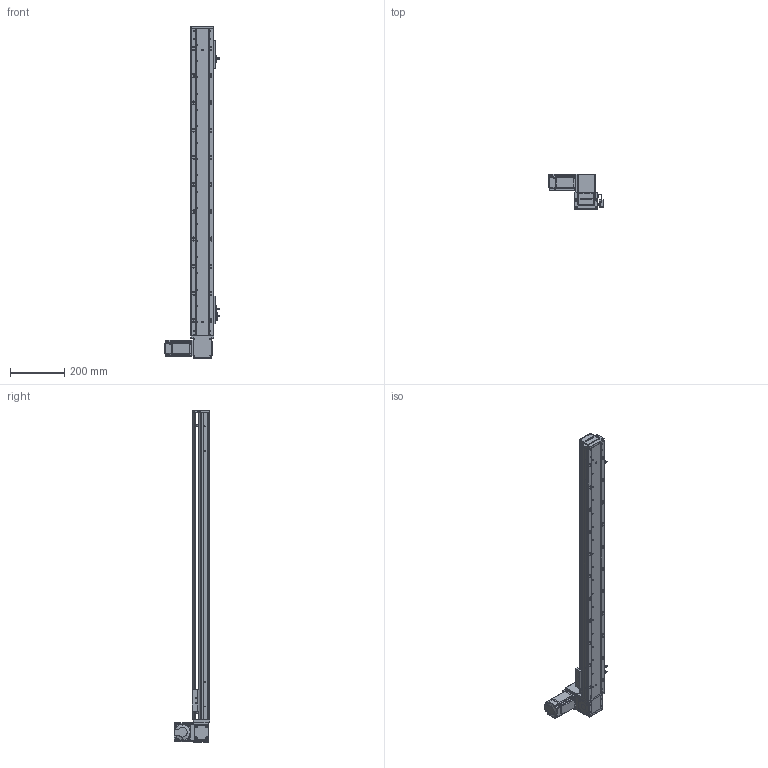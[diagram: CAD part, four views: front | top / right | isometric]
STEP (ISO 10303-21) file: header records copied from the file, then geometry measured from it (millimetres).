
FILE_DESCRIPTION (( 'STEP AP203' ), '1' );
FILE_NAME ('RY80-T-300-UL.SLDASM_950.step', '2021-03-01T02:17:10', ( '盈信电脑' ), ( '东莞市道滘镇水果街19号' ), 'SwSTEP 2.0', 'SolidWorks 2012', '' );
FILE_SCHEMA (( 'CONFIG_CONTROL_DESIGN' ));
Products named in the file (19): RY80-T-300-UL.SLDASM_950; RY80-T-上下折同步轮盖板; RY80-T-M4蹟翐2; RY80-T翋肮祭謫裔啣; 1; RY80-T肮祭謫奻殏俋欶; 滅袉蝶18-10; RY80-T萇儂假蚾啣; RY80-T肮祭湍揤輸2; RY80-T粣創揤踡輸; RY80俋离覜茼え; 覜茼ん672; RY80-T肮祭湍揤輸1; RY80-T-翋肮祭謫釱; RY80-T肮祭謫臏賑輸; 672嫖萇羲壽假蚾釱; RY80-T-300-UL倰第奻裔啣_950; RY80-T綴裔啣; RY80-T-300-UL倰第菁釱_950
Assembly tree (24 placements, depth 2):
  RY80-T-300-UL.SLDASM_950
    RY80-T-300-UL倰第菁釱_950
    RY80-T肮祭謫臏賑輸
    RY80-T-300-UL倰第奻裔啣_950
    RY80-T綴裔啣
    672嫖萇羲壽假蚾釱  x2
    覜茼ん672  x3
    RY80俋离覜茼え
    RY80-T-翋肮祭謫釱
    RY80-T肮祭湍揤輸1
    RY80-T肮祭湍揤輸2
    RY80-T萇儂假蚾啣
    RY80-T粣創揤踡輸  x2
    滅袉蝶18-10  x2
    RY80-T翋肮祭謫裔啣
    1
    RY80-T肮祭謫奻殏俋欶
    RY80-T-M4蹟翐2  x2
    RY80-T-上下折同步轮盖板
Bounding box: 198.7 x 130.5 x 1220 mm (x, y, z)
Volume: 2123322.6 mm3; surface area: 890404.6 mm2
Topology: 24 solids, 24 shells, 2653 faces, 7342 edges, 4769 vertices
Faces by surface type: plane 1378, cylinder 1066, cone 153, bspline 56
Entity records: 84623 total; most frequent: CARTESIAN_POINT 21574, ORIENTED_EDGE 13068, DIRECTION 12096, EDGE_CURVE 6534, VERTEX_POINT 4290, AXIS2_PLACEMENT_3D 4104, VECTOR 3888, LINE 3888
